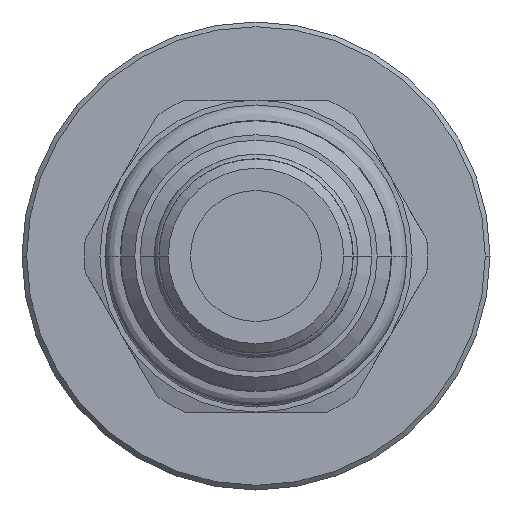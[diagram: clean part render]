
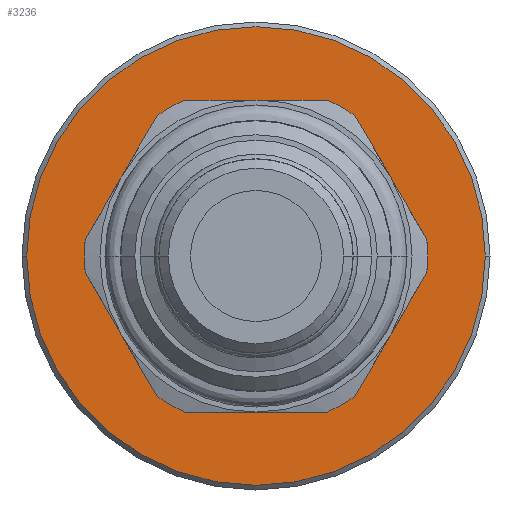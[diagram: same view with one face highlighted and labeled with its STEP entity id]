
A CAD part, front view. The second image highlights one B-rep face of the part: STEP entity #3236.
In plain terms, the highlighted planar face has unit normal (0, -1, 0).
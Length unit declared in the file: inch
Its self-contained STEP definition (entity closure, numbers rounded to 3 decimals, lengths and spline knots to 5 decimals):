
#965=CARTESIAN_POINT('',(0.,0.84823,0.));
#966=DIRECTION('',(0.,-1.,0.));
#967=DIRECTION('',(-1.,0.,0.));
#968=AXIS2_PLACEMENT_3D('',#965,#966,#967);
#970=CARTESIAN_POINT('',(0.,0.84823,0.));
#971=DIRECTION('',(0.,-1.,0.));
#972=DIRECTION('',(1.,0.,0.));
#973=AXIS2_PLACEMENT_3D('',#970,#971,#972);
#975=CARTESIAN_POINT('',(0.,0.84823,0.));
#976=DIRECTION('',(0.,-1.,0.));
#977=DIRECTION('',(-1.,0.,0.));
#978=AXIS2_PLACEMENT_3D('',#975,#976,#977);
#993=CARTESIAN_POINT('',(0.,0.84823,0.));
#994=DIRECTION('',(0.,-1.,0.));
#995=DIRECTION('',(1.,0.,0.));
#996=AXIS2_PLACEMENT_3D('',#993,#994,#995);
#1921=CARTESIAN_POINT('',(-0.375,0.84823,0.));
#1922=CARTESIAN_POINT('',(0.375,0.84823,0.));
#1923=VERTEX_POINT('',#1921);
#1924=VERTEX_POINT('',#1922);
#1925=CARTESIAN_POINT('',(0.735,0.84823,0.));
#1926=CARTESIAN_POINT('',(-0.735,0.84823,0.));
#1927=VERTEX_POINT('',#1925);
#1928=VERTEX_POINT('',#1926);
#3221=CARTESIAN_POINT('',(0.,0.84823,0.));
#3222=DIRECTION('',(0.,-1.,0.));
#3223=DIRECTION('',(-1.,0.,0.));
#3224=AXIS2_PLACEMENT_3D('',#3221,#3222,#3223);
#3225=PLANE('',#3224);
#3227=ORIENTED_EDGE('',*,*,#3226,.F.);
#3229=ORIENTED_EDGE('',*,*,#3228,.F.);
#3230=EDGE_LOOP('',(#3227,#3229));
#3231=FACE_OUTER_BOUND('',#3230,.F.);
#3232=ORIENTED_EDGE('',*,*,#2006,.T.);
#3233=ORIENTED_EDGE('',*,*,#3215,.T.);
#3234=EDGE_LOOP('',(#3232,#3233));
#3235=FACE_BOUND('',#3234,.F.);
#3236=ADVANCED_FACE('',(#3231,#3235),#3225,.T.);
#969=CIRCLE('',#968,0.375);
#974=CIRCLE('',#973,0.375);
#979=CIRCLE('',#978,0.735);
#997=CIRCLE('',#996,0.735);
#2006=EDGE_CURVE('',#1923,#1924,#969,.T.);
#3215=EDGE_CURVE('',#1924,#1923,#974,.T.);
#3226=EDGE_CURVE('',#1928,#1927,#979,.T.);
#3228=EDGE_CURVE('',#1927,#1928,#997,.T.);
